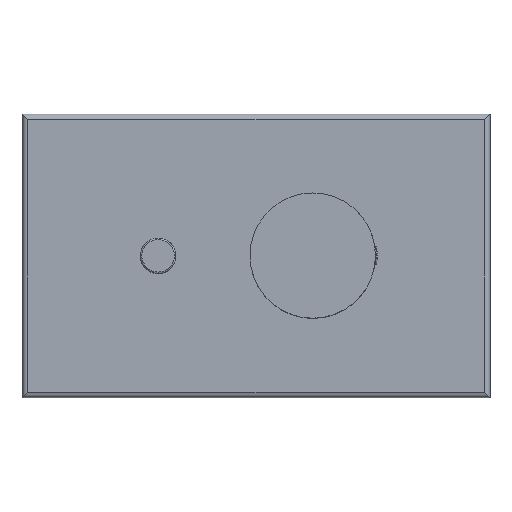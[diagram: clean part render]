
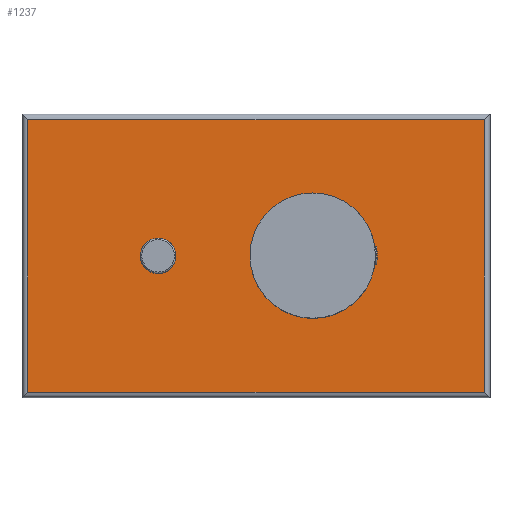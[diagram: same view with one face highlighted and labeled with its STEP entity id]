
A CAD part, top view. The second image highlights one B-rep face of the part: STEP entity #1237.
In plain terms, the highlighted planar face has unit normal (0, 0, 1).
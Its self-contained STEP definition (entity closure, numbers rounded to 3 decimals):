
#105=CARTESIAN_POINT('',(20.,0.,7.));
#106=DIRECTION('',(0.,0.,1.));
#107=DIRECTION('',(0.,1.,0.));
#108=AXIS2_PLACEMENT_3D('',#105,#106,#107);
#115=DIRECTION('',(0.,-1.,0.));
#116=VECTOR('',#115,96.);
#117=CARTESIAN_POINT('',(-80.5,48.,7.));
#118=LINE('',#117,#116);
#119=DIRECTION('',(-1.,0.,0.));
#120=VECTOR('',#119,161.);
#121=CARTESIAN_POINT('',(80.5,48.,7.));
#122=LINE('',#121,#120);
#123=DIRECTION('',(0.,1.,0.));
#124=VECTOR('',#123,96.);
#125=CARTESIAN_POINT('',(80.5,-48.,7.));
#126=LINE('',#125,#124);
#127=DIRECTION('',(1.,0.,0.));
#128=VECTOR('',#127,161.);
#129=CARTESIAN_POINT('',(-80.5,-48.,7.));
#130=LINE('',#129,#128);
#283=CARTESIAN_POINT('',(20.,0.,7.));
#284=DIRECTION('',(0.,0.,1.));
#285=DIRECTION('',(0.,-1.,0.));
#286=AXIS2_PLACEMENT_3D('',#283,#284,#285);
#306=CARTESIAN_POINT('',(-34.5,0.,7.));
#307=DIRECTION('',(0.,0.,1.));
#308=DIRECTION('',(1.,0.,0.));
#309=AXIS2_PLACEMENT_3D('',#306,#307,#308);
#372=CARTESIAN_POINT('',(-34.5,0.,7.));
#373=DIRECTION('',(0.,0.,1.));
#374=DIRECTION('',(-1.,0.,0.));
#375=AXIS2_PLACEMENT_3D('',#372,#373,#374);
#923=CARTESIAN_POINT('',(-80.5,48.,7.));
#924=CARTESIAN_POINT('',(-80.5,-48.,7.));
#925=VERTEX_POINT('',#923);
#926=VERTEX_POINT('',#924);
#927=CARTESIAN_POINT('',(80.5,-48.,7.));
#928=VERTEX_POINT('',#927);
#933=CARTESIAN_POINT('',(80.5,48.,7.));
#934=VERTEX_POINT('',#933);
#991=CARTESIAN_POINT('',(-28.25,0.,7.));
#992=CARTESIAN_POINT('',(-40.75,0.,7.));
#993=VERTEX_POINT('',#991);
#994=VERTEX_POINT('',#992);
#995=CARTESIAN_POINT('',(20.,20.35,7.));
#996=CARTESIAN_POINT('',(20.,-20.35,7.));
#997=VERTEX_POINT('',#995);
#998=VERTEX_POINT('',#996);
#1211=CARTESIAN_POINT('',(0.,0.,7.));
#1212=DIRECTION('',(0.,0.,1.));
#1213=DIRECTION('',(-1.,0.,0.));
#1214=AXIS2_PLACEMENT_3D('',#1211,#1212,#1213);
#1215=PLANE('',#1214);
#1217=ORIENTED_EDGE('',*,*,#1216,.F.);
#1219=ORIENTED_EDGE('',*,*,#1218,.F.);
#1221=ORIENTED_EDGE('',*,*,#1220,.F.);
#1223=ORIENTED_EDGE('',*,*,#1222,.F.);
#1224=EDGE_LOOP('',(#1217,#1219,#1221,#1223));
#1225=FACE_OUTER_BOUND('',#1224,.F.);
#1226=ORIENTED_EDGE('',*,*,#1201,.T.);
#1228=ORIENTED_EDGE('',*,*,#1227,.T.);
#1229=EDGE_LOOP('',(#1226,#1228));
#1230=FACE_BOUND('',#1229,.F.);
#1232=ORIENTED_EDGE('',*,*,#1231,.T.);
#1234=ORIENTED_EDGE('',*,*,#1233,.T.);
#1235=EDGE_LOOP('',(#1232,#1234));
#1236=FACE_BOUND('',#1235,.F.);
#1237=ADVANCED_FACE('',(#1225,#1230,#1236),#1215,.T.);
#109=CIRCLE('',#108,20.35);
#287=CIRCLE('',#286,20.35);
#310=CIRCLE('',#309,6.25);
#376=CIRCLE('',#375,6.25);
#1201=EDGE_CURVE('',#997,#998,#109,.T.);
#1216=EDGE_CURVE('',#925,#926,#118,.T.);
#1218=EDGE_CURVE('',#934,#925,#122,.T.);
#1220=EDGE_CURVE('',#928,#934,#126,.T.);
#1222=EDGE_CURVE('',#926,#928,#130,.T.);
#1227=EDGE_CURVE('',#998,#997,#287,.T.);
#1231=EDGE_CURVE('',#993,#994,#310,.T.);
#1233=EDGE_CURVE('',#994,#993,#376,.T.);
